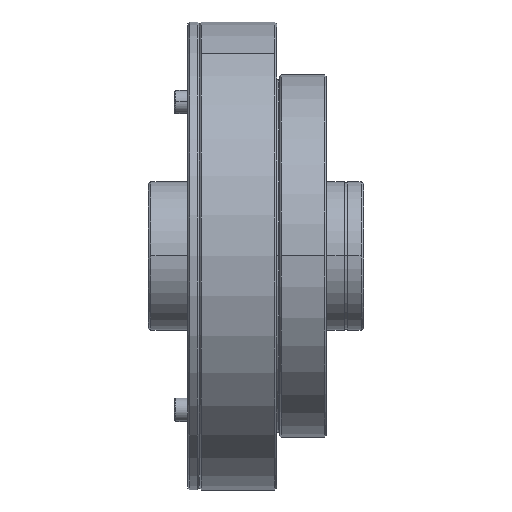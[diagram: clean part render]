
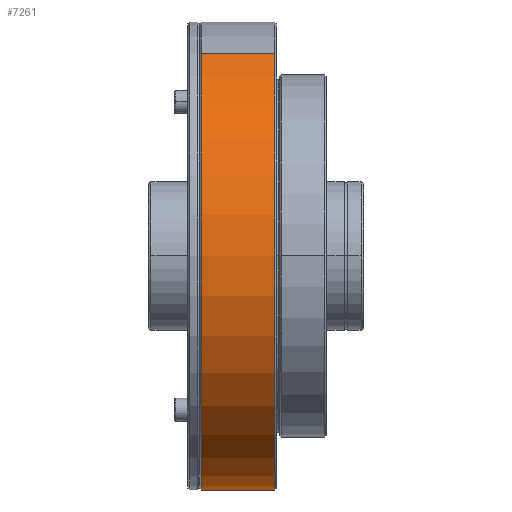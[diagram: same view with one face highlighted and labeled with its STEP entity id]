
A CAD part, top view. The second image highlights one B-rep face of the part: STEP entity #7261.
In plain terms, the highlighted cylindrical face has radius 71 mm (diameter 142 mm), a partial arc.
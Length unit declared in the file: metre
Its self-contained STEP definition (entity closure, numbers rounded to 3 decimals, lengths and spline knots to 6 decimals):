
#808 = EDGE_CURVE ( 'NONE', #11650, #4299, #16595, .T. ) ;
#829 = DIRECTION ( 'NONE',  ( 1., 0., 0. ) ) ;
#1155 = CARTESIAN_POINT ( 'NONE',  ( 0.065124, -0.061488, -0.0355 ) ) ;
#1163 = EDGE_CURVE ( 'NONE', #9135, #11650, #3176, .T. ) ;
#1291 = DIRECTION ( 'NONE',  ( 1., 0., 0. ) ) ;
#1385 = DIRECTION ( 'NONE',  ( 0., 0.866, 0.5 ) ) ;
#3176 = CIRCLE ( 'NONE', #6944, 0.071 ) ;
#3326 = CARTESIAN_POINT ( 'NONE',  ( 0.065124, 0., 0. ) ) ;
#4299 = VERTEX_POINT ( 'NONE', #24998 ) ;
#6594 = CARTESIAN_POINT ( 'NONE',  ( 0.0162, 0.061488, 0.0355 ) ) ;
#6944 = AXIS2_PLACEMENT_3D ( 'NONE', #22783, #20319, #18414 ) ;
#7261 = ADVANCED_FACE ( 'NONE', ( #25760 ), #27809, .T. ) ;
#7452 = VECTOR ( 'NONE', #11820, 1. ) ;
#8464 = VECTOR ( 'NONE', #1291, 1. ) ;
#8955 = CIRCLE ( 'NONE', #25346, 0.071 ) ;
#9135 = VERTEX_POINT ( 'NONE', #6594 ) ;
#11650 = VERTEX_POINT ( 'NONE', #19660 ) ;
#11820 = DIRECTION ( 'NONE',  ( 1., 0., 0. ) ) ;
#11978 = DIRECTION ( 'NONE',  ( 0., 0.866, 0.5 ) ) ;
#12263 = CARTESIAN_POINT ( 'NONE',  ( 0.065124, 0.061488, 0.0355 ) ) ;
#12267 = CARTESIAN_POINT ( 'NONE',  ( 0.0384, 0., 0. ) ) ;
#12384 = AXIS2_PLACEMENT_3D ( 'NONE', #3326, #829, #11978 ) ;
#12811 = ORIENTED_EDGE ( 'NONE', *, *, #808, .T. ) ;
#13457 = EDGE_CURVE ( 'NONE', #9135, #24900, #23553, .T. ) ;
#13697 = EDGE_LOOP ( 'NONE', ( #21738, #12811, #28519, #26869 ) ) ;
#15930 = CARTESIAN_POINT ( 'NONE',  ( 0.0384, 0.061488, 0.0355 ) ) ;
#16595 = LINE ( 'NONE', #1155, #8464 ) ;
#16970 = DIRECTION ( 'NONE',  ( -1., 0., 0. ) ) ;
#18414 = DIRECTION ( 'NONE',  ( 0., 0.866, 0.5 ) ) ;
#19660 = CARTESIAN_POINT ( 'NONE',  ( 0.0162, -0.061488, -0.0355 ) ) ;
#20319 = DIRECTION ( 'NONE',  ( 1., 0., 0. ) ) ;
#21738 = ORIENTED_EDGE ( 'NONE', *, *, #1163, .T. ) ;
#22783 = CARTESIAN_POINT ( 'NONE',  ( 0.0162, 0., 0. ) ) ;
#23553 = LINE ( 'NONE', #12263, #7452 ) ;
#24900 = VERTEX_POINT ( 'NONE', #15930 ) ;
#24998 = CARTESIAN_POINT ( 'NONE',  ( 0.0384, -0.061488, -0.0355 ) ) ;
#25346 = AXIS2_PLACEMENT_3D ( 'NONE', #12267, #16970, #1385 ) ;
#25760 = FACE_OUTER_BOUND ( 'NONE', #13697, .T. ) ;
#26869 = ORIENTED_EDGE ( 'NONE', *, *, #13457, .F. ) ;
#27122 = EDGE_CURVE ( 'NONE', #4299, #24900, #8955, .T. ) ;
#27809 = CYLINDRICAL_SURFACE ( 'NONE', #12384, 0.071 ) ;
#28519 = ORIENTED_EDGE ( 'NONE', *, *, #27122, .T. ) ;
